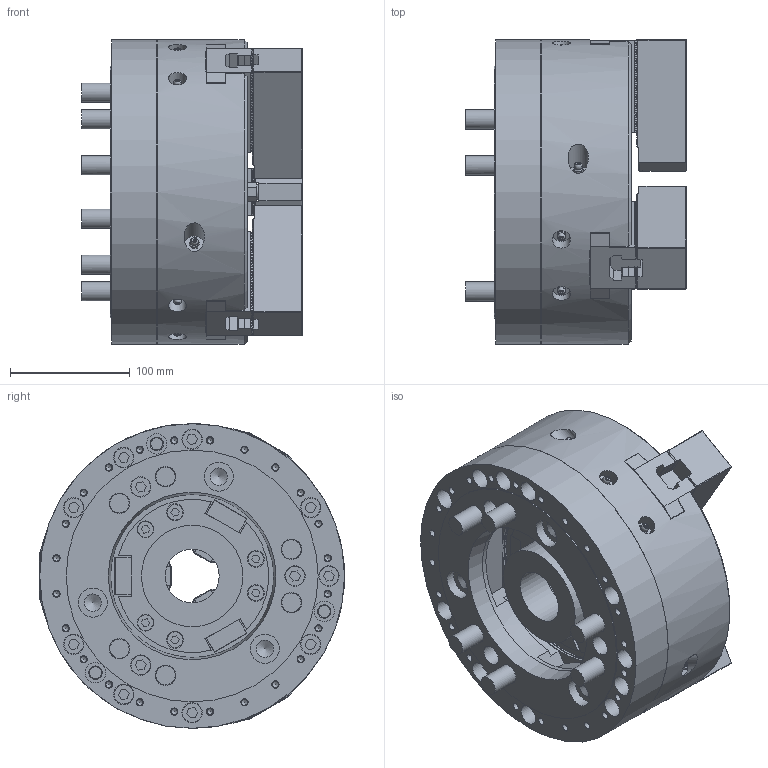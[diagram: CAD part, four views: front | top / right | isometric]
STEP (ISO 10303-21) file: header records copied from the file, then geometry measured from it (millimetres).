
FILE_DESCRIPTION (( 'STEP AP214' ), '1' );
FILE_NAME ('HOH-10K_UC.STEP', '2020-03-06T02:56:13', ( '' ), ( '' ), 'SwSTEP 2.0', 'SolidWorks 2017', '' );
FILE_SCHEMA (( 'AUTOMOTIVE_DESIGN' ));
Length unit declared in the file: millimetre
Products named in the file (18): 俛傾僫僣僉 M12x3512x35; 61P400852_TNUT; 俛傾僫僣僉 M12x3512x35_B迸路 M12X3512X35; HOH-10K_UC; Part1^61P211221_HOH-10K_ASSY_蹬怮椔; P31633_SOFT JAW; 61P400852_TNUT_蹬怮椔; Part1^61P211221_HOH-10K_ASSY; P31633_SOFT JAW_蹬怮椔
Assembly tree (13 placements, depth 2):
  俛傾僫僣僉 M12x3512x35
  俛傾僫僣僉 M12x3512x35
  俛傾僫僣僉 M12x3512x35
  61P400852_TNUT
  俛傾僫僣僉 M12x3512x35
Bounding box: 184.2 x 254.25 x 254 mm (x, y, z)
Volume: 5291011.9 mm3; surface area: 548496 mm2
Topology: 13 solids, 61 shells, 3594 faces, 9791 edges, 6510 vertices
Faces by surface type: plane 3103, cylinder 341, cone 123, sphere 18, torus 9
Full cylindrical faces by diameter (mm): 1.5 x6, 1.9 x9, 4 x6, 5 x30, 6 x36, 6.1 x6, 6.8 x6, 8 x6, 10 x12, 11 x9, 12 x18, 13 x12, 14 x6, 15 x6, 16 x24, 17 x24, 18 x6, 19 x6, 24 x6, 24.2 x3, 25 x6, 45 x1, 65 x2, 70 x1, 76.4 x1, 84.5 x1, 136 x1, 142 x1, 143.205 x1, 210 x1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
Entity records: 81770 total; most frequent: CARTESIAN_POINT 15956, ORIENTED_EDGE 13350, DIRECTION 12823, EDGE_CURVE 6675, LINE 5665, VECTOR 5665, VERTEX_POINT 4616, AXIS2_PLACEMENT_3D 3579
